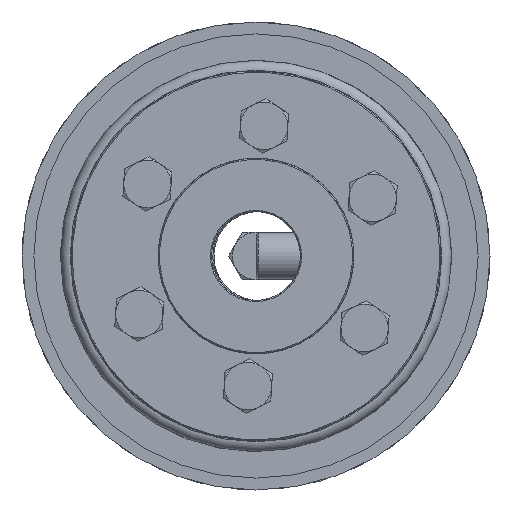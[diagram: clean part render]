
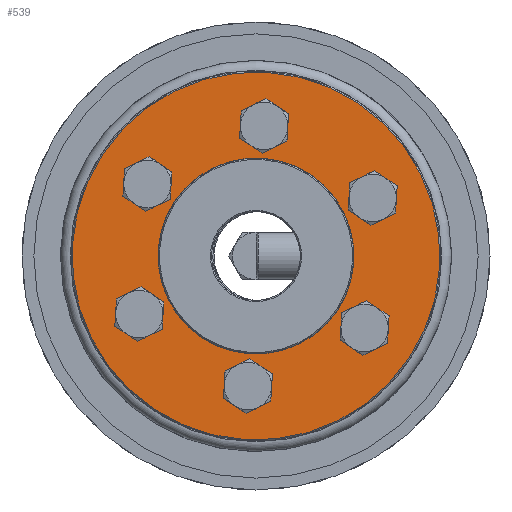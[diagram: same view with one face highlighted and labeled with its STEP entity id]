
A CAD part, left-side view. The second image highlights one B-rep face of the part: STEP entity #539.
In plain terms, the highlighted planar face has unit normal (-1, 0, 0).
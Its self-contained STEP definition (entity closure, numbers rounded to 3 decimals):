
#539 = ADVANCED_FACE( 'NONE', ( #917, #918, #919, #920, #921, #922, #923, #924 ), #925, .F. );
#917 = FACE_OUTER_BOUND( '', #1482, .T. );
#918 = FACE_BOUND( '', #1483, .T. );
#919 = FACE_BOUND( '', #1484, .T. );
#920 = FACE_BOUND( '', #1485, .T. );
#921 = FACE_BOUND( '', #1486, .T. );
#922 = FACE_BOUND( '', #1487, .T. );
#923 = FACE_BOUND( '', #1488, .T. );
#924 = FACE_BOUND( '', #1489, .T. );
#925 = PLANE( '', #1490 );
#1482 = EDGE_LOOP( '', ( #2149 ) );
#1483 = EDGE_LOOP( '', ( #2150 ) );
#1484 = EDGE_LOOP( '', ( #2151 ) );
#1485 = EDGE_LOOP( '', ( #2152 ) );
#1486 = EDGE_LOOP( '', ( #2153 ) );
#1487 = EDGE_LOOP( '', ( #2154 ) );
#1488 = EDGE_LOOP( '', ( #2155 ) );
#1489 = EDGE_LOOP( '', ( #2156 ) );
#1490 = AXIS2_PLACEMENT_3D( '', #2157, #2158, #2159 );
#2149 = ORIENTED_EDGE( '', *, *, #3262, .T. );
#2150 = ORIENTED_EDGE( '', *, *, #3251, .T. );
#2151 = ORIENTED_EDGE( '', *, *, #3263, .T. );
#2152 = ORIENTED_EDGE( '', *, *, #3264, .T. );
#2153 = ORIENTED_EDGE( '', *, *, #3260, .T. );
#2154 = ORIENTED_EDGE( '', *, *, #3265, .T. );
#2155 = ORIENTED_EDGE( '', *, *, #3266, .T. );
#2156 = ORIENTED_EDGE( '', *, *, #3261, .F. );
#2157 = CARTESIAN_POINT( '', ( 0., 16.5, 0. ) );
#2158 = DIRECTION( '', ( 1., 0., 0. ) );
#2159 = DIRECTION( '', ( 0., 1., 0. ) );
#3251 = EDGE_CURVE( 'NONE', #3544, #3544, #3545, .T. );
#3260 = EDGE_CURVE( 'NONE', #3562, #3562, #3563, .T. );
#3261 = EDGE_CURVE( 'NONE', #3564, #3564, #3565, .T. );
#3262 = EDGE_CURVE( 'NONE', #3566, #3566, #3567, .T. );
#3263 = EDGE_CURVE( 'NONE', #3568, #3568, #3569, .T. );
#3264 = EDGE_CURVE( 'NONE', #3570, #3570, #3571, .T. );
#3265 = EDGE_CURVE( 'NONE', #3572, #3572, #3573, .T. );
#3266 = EDGE_CURVE( 'NONE', #3574, #3574, #3575, .T. );
#3544 = VERTEX_POINT( '', #3952 );
#3545 = CIRCLE( '', #3953, 2.75 );
#3562 = VERTEX_POINT( '', #3970 );
#3563 = CIRCLE( '', #3971, 2.75 );
#3564 = VERTEX_POINT( '', #3972 );
#3565 = CIRCLE( '', #3973, 16.5 );
#3566 = VERTEX_POINT( '', #3974 );
#3567 = CIRCLE( '', #3975, 31.05 );
#3568 = VERTEX_POINT( '', #3976 );
#3569 = CIRCLE( '', #3977, 2.75 );
#3570 = VERTEX_POINT( '', #3978 );
#3571 = CIRCLE( '', #3979, 2.75 );
#3572 = VERTEX_POINT( '', #3980 );
#3573 = CIRCLE( '', #3981, 2.75 );
#3574 = VERTEX_POINT( '', #3982 );
#3575 = CIRCLE( '', #3983, 2.75 );
#3952 = CARTESIAN_POINT( '', ( 0., 11., 16.303 ) );
#3953 = AXIS2_PLACEMENT_3D( '', #4691, #4692, #4693 );
#3970 = CARTESIAN_POINT( '', ( 0., -11., -21.803 ) );
#3971 = AXIS2_PLACEMENT_3D( '', #4718, #4719, #4720 );
#3972 = CARTESIAN_POINT( '', ( 0., 0., 16.5 ) );
#3973 = AXIS2_PLACEMENT_3D( '', #4721, #4722, #4723 );
#3974 = CARTESIAN_POINT( '', ( 0., 0., -31.05 ) );
#3975 = AXIS2_PLACEMENT_3D( '', #4724, #4725, #4726 );
#3976 = CARTESIAN_POINT( '', ( 0., -11., 16.303 ) );
#3977 = AXIS2_PLACEMENT_3D( '', #4727, #4728, #4729 );
#3978 = CARTESIAN_POINT( '', ( 0., -22., -2.75 ) );
#3979 = AXIS2_PLACEMENT_3D( '', #4730, #4731, #4732 );
#3980 = CARTESIAN_POINT( '', ( 0., 11., -21.803 ) );
#3981 = AXIS2_PLACEMENT_3D( '', #4733, #4734, #4735 );
#3982 = CARTESIAN_POINT( '', ( 0., 22., -2.75 ) );
#3983 = AXIS2_PLACEMENT_3D( '', #4736, #4737, #4738 );
#4691 = CARTESIAN_POINT( '', ( 0., 11., 19.053 ) );
#4692 = DIRECTION( '', ( 1., 0., 0. ) );
#4693 = DIRECTION( '', ( 0., 0., -1. ) );
#4718 = CARTESIAN_POINT( '', ( 0., -11., -19.053 ) );
#4719 = DIRECTION( '', ( 1., 0., 0. ) );
#4720 = DIRECTION( '', ( 0., 0., -1. ) );
#4721 = CARTESIAN_POINT( '', ( 0., 0., 0. ) );
#4722 = DIRECTION( '', ( -1., 0., 0. ) );
#4723 = DIRECTION( '', ( 0., 0., 1. ) );
#4724 = CARTESIAN_POINT( '', ( 0., 0., 0. ) );
#4725 = DIRECTION( '', ( -1., 0., 0. ) );
#4726 = DIRECTION( '', ( 0., 0., -1. ) );
#4727 = CARTESIAN_POINT( '', ( 0., -11., 19.053 ) );
#4728 = DIRECTION( '', ( 1., 0., 0. ) );
#4729 = DIRECTION( '', ( 0., 0., -1. ) );
#4730 = CARTESIAN_POINT( '', ( 0., -22., 0. ) );
#4731 = DIRECTION( '', ( 1., 0., 0. ) );
#4732 = DIRECTION( '', ( 0., 0., -1. ) );
#4733 = CARTESIAN_POINT( '', ( 0., 11., -19.053 ) );
#4734 = DIRECTION( '', ( 1., 0., 0. ) );
#4735 = DIRECTION( '', ( 0., 0., -1. ) );
#4736 = CARTESIAN_POINT( '', ( 0., 22., 0. ) );
#4737 = DIRECTION( '', ( 1., 0., 0. ) );
#4738 = DIRECTION( '', ( 0., 0., -1. ) );
